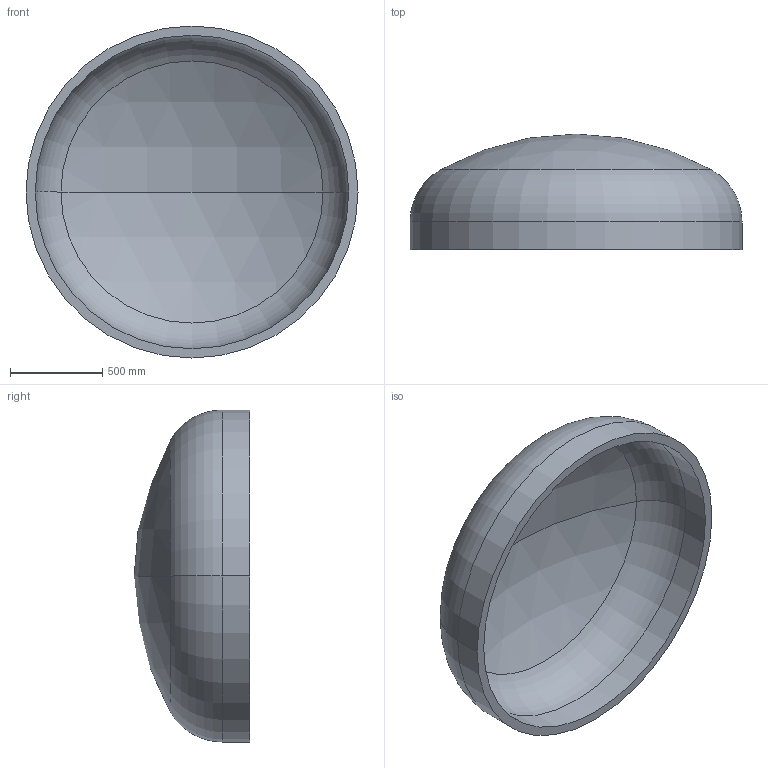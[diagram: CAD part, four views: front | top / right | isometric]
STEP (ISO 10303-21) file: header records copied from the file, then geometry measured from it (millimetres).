
FILE_DESCRIPTION (( 'STEP AP203' ), '1' );
FILE_NAME ('DIN 28013 Korbbogenform_-_Boden DIN 28013 - 1800 x 150 - I - s=50.step', '2016-07-01T12:33:56', ( '' ), ( '' ), 'SwSTEP 2.0', 'SolidWorks 2013', '' );
FILE_SCHEMA (( 'CONFIG_CONTROL_DESIGN' ));
Length unit declared in the file: millimetre
Products named in the file (1): DIN 28013 Korbbogenform_-_Boden DIN 28013 - 1800 x 150 - I - s=50
Bounding box: 1800 x 626.79 x 1800 mm (x, y, z)
Volume: 210890028.3 mm3; surface area: 8715724 mm2
Topology: 1 solids, 1 shells, 13 faces, 24 edges, 14 vertices
Faces by surface type: torus 4, cylinder 4, sphere 4, plane 1
Entity records: 407 total; most frequent: DIRECTION 72, CARTESIAN_POINT 52, ORIENTED_EDGE 48, AXIS2_PLACEMENT_3D 34, EDGE_CURVE 24, CIRCLE 20, EDGE_LOOP 14, VERTEX_POINT 14
